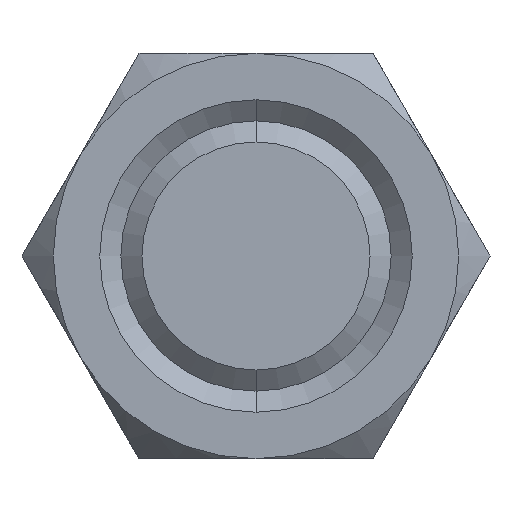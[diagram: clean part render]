
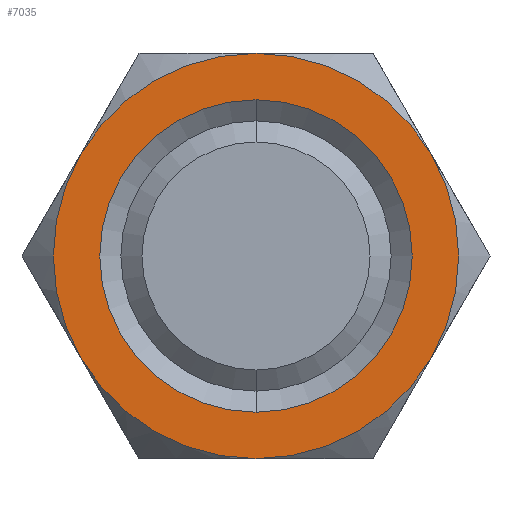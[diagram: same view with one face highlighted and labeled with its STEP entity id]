
A CAD part, front view. The second image highlights one B-rep face of the part: STEP entity #7035.
In plain terms, the highlighted planar face has unit normal (0, -1, 0).
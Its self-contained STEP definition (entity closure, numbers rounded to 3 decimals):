
#5474 = CARTESIAN_POINT ( 'NONE',  ( 0., 0., 11.561 ) ) ;
#5475 = DIRECTION ( 'NONE',  ( 0., 0., -1. ) ) ;
#5476 = DIRECTION ( 'NONE',  ( 0., -1., 0. ) ) ;
#5477 = CARTESIAN_POINT ( 'NONE',  ( 0., 0., 0. ) ) ;
#5478 = AXIS2_PLACEMENT_3D ( 'NONE', #5477, #5476, #5475 ) ;
#5479 = CIRCLE ( 'NONE', #5478, 11.561 ) ;
#5480 = CARTESIAN_POINT ( 'NONE',  ( 0., 0., -11.561 ) ) ;
#6966 = VERTEX_POINT ( 'NONE', #15062 ) ;
#6971 = ORIENTED_EDGE ( 'NONE', *, *, #7116, .F. ) ;
#6985 = ORIENTED_EDGE ( 'NONE', *, *, #6991, .F. ) ;
#6991 = EDGE_CURVE ( 'NONE', #6966, #7014, #15152, .T. ) ;
#7002 = VERTEX_POINT ( 'NONE', #15130 ) ;
#7009 = EDGE_CURVE ( 'NONE', #7014, #7019, #14871, .T. ) ;
#7010 = ORIENTED_EDGE ( 'NONE', *, *, #7009, .F. ) ;
#7014 = VERTEX_POINT ( 'NONE', #15178 ) ;
#7016 = EDGE_LOOP ( 'NONE', ( #7017, #7010, #6985, #6971, #7109, #7102 ) ) ;
#7017 = ORIENTED_EDGE ( 'NONE', *, *, #7025, .F. ) ;
#7019 = VERTEX_POINT ( 'NONE', #15171 ) ;
#7025 = EDGE_CURVE ( 'NONE', #7019, #7002, #15159, .T. ) ;
#7035 = ADVANCED_FACE ( 'NONE', ( #15196, #15195 ), #15199, .F. ) ;
#7093 = ORIENTED_EDGE ( 'NONE', *, *, #7098, .F. ) ;
#7097 = ORIENTED_EDGE ( 'NONE', *, *, #15348, .F. ) ;
#7098 = EDGE_CURVE ( 'NONE', #15087, #15588, #15297, .T. ) ;
#7100 = EDGE_CURVE ( 'NONE', #7108, #7101, #15285, .T. ) ;
#7101 = VERTEX_POINT ( 'NONE', #15341 ) ;
#7102 = ORIENTED_EDGE ( 'NONE', *, *, #7104, .F. ) ;
#7103 = EDGE_LOOP ( 'NONE', ( #7093, #7097 ) ) ;
#7104 = EDGE_CURVE ( 'NONE', #7002, #7101, #15339, .T. ) ;
#7108 = VERTEX_POINT ( 'NONE', #15325 ) ;
#7109 = ORIENTED_EDGE ( 'NONE', *, *, #7100, .T. ) ;
#7116 = EDGE_CURVE ( 'NONE', #7108, #6966, #15373, .T. ) ;
#14871 = CIRCLE ( 'NONE', #15186, 15. ) ;
#15062 = CARTESIAN_POINT ( 'NONE',  ( -12.99, 0., -7.5 ) ) ;
#15087 = VERTEX_POINT ( 'NONE', #5480 ) ;
#15130 = CARTESIAN_POINT ( 'NONE',  ( 12.99, 0., 7.5 ) ) ;
#15148 = DIRECTION ( 'NONE',  ( 0., 0., 1. ) ) ;
#15149 = DIRECTION ( 'NONE',  ( 0., 1., 0. ) ) ;
#15150 = CARTESIAN_POINT ( 'NONE',  ( 0., 0., 0. ) ) ;
#15151 = AXIS2_PLACEMENT_3D ( 'NONE', #15150, #15149, #15148 ) ;
#15152 = CIRCLE ( 'NONE', #15151, 15. ) ;
#15155 = DIRECTION ( 'NONE',  ( 0., 0., 1. ) ) ;
#15156 = DIRECTION ( 'NONE',  ( 0., 1., 0. ) ) ;
#15157 = CARTESIAN_POINT ( 'NONE',  ( 0., 0., 0. ) ) ;
#15158 = AXIS2_PLACEMENT_3D ( 'NONE', #15157, #15156, #15155 ) ;
#15159 = CIRCLE ( 'NONE', #15158, 15. ) ;
#15171 = CARTESIAN_POINT ( 'NONE',  ( 0., 0., 15. ) ) ;
#15178 = CARTESIAN_POINT ( 'NONE',  ( -12.99, 0., 7.5 ) ) ;
#15183 = DIRECTION ( 'NONE',  ( 0., 0., 1. ) ) ;
#15184 = DIRECTION ( 'NONE',  ( 0., 1., 0. ) ) ;
#15185 = CARTESIAN_POINT ( 'NONE',  ( 0., 0., 0. ) ) ;
#15186 = AXIS2_PLACEMENT_3D ( 'NONE', #15185, #15184, #15183 ) ;
#15190 = DIRECTION ( 'NONE',  ( 0., 0., 1. ) ) ;
#15191 = DIRECTION ( 'NONE',  ( 0., 1., 0. ) ) ;
#15193 = CARTESIAN_POINT ( 'NONE',  ( 17.321, 0., 0. ) ) ;
#15194 = AXIS2_PLACEMENT_3D ( 'NONE', #15193, #15191, #15190 ) ;
#15195 = FACE_BOUND ( 'NONE', #7103, .T. ) ;
#15196 = FACE_OUTER_BOUND ( 'NONE', #7016, .T. ) ;
#15199 = PLANE ( 'NONE',  #15194 ) ;
#15284 = AXIS2_PLACEMENT_3D ( 'NONE', #15289, #15343, #15342 ) ;
#15285 = CIRCLE ( 'NONE', #15284, 15. ) ;
#15289 = CARTESIAN_POINT ( 'NONE',  ( 0., 0., 0. ) ) ;
#15293 = DIRECTION ( 'NONE',  ( 0., 0., -1. ) ) ;
#15294 = DIRECTION ( 'NONE',  ( 0., -1., 0. ) ) ;
#15295 = CARTESIAN_POINT ( 'NONE',  ( 0., 0., 0. ) ) ;
#15296 = AXIS2_PLACEMENT_3D ( 'NONE', #15295, #15294, #15293 ) ;
#15297 = CIRCLE ( 'NONE', #15296, 11.561 ) ;
#15325 = CARTESIAN_POINT ( 'NONE',  ( 0., 0., -15. ) ) ;
#15335 = DIRECTION ( 'NONE',  ( 0., 0., 1. ) ) ;
#15336 = DIRECTION ( 'NONE',  ( 0., 1., 0. ) ) ;
#15337 = CARTESIAN_POINT ( 'NONE',  ( 0., 0., 0. ) ) ;
#15338 = AXIS2_PLACEMENT_3D ( 'NONE', #15337, #15336, #15335 ) ;
#15339 = CIRCLE ( 'NONE', #15338, 15. ) ;
#15341 = CARTESIAN_POINT ( 'NONE',  ( 12.99, 0., -7.5 ) ) ;
#15342 = DIRECTION ( 'NONE',  ( 0., 0., -1. ) ) ;
#15343 = DIRECTION ( 'NONE',  ( 0., -1., 0. ) ) ;
#15348 = EDGE_CURVE ( 'NONE', #15588, #15087, #5479, .T. ) ;
#15369 = DIRECTION ( 'NONE',  ( 0., 0., 1. ) ) ;
#15370 = DIRECTION ( 'NONE',  ( 0., 1., 0. ) ) ;
#15371 = CARTESIAN_POINT ( 'NONE',  ( 0., 0., 0. ) ) ;
#15372 = AXIS2_PLACEMENT_3D ( 'NONE', #15371, #15370, #15369 ) ;
#15373 = CIRCLE ( 'NONE', #15372, 15. ) ;
#15588 = VERTEX_POINT ( 'NONE', #5474 ) ;
